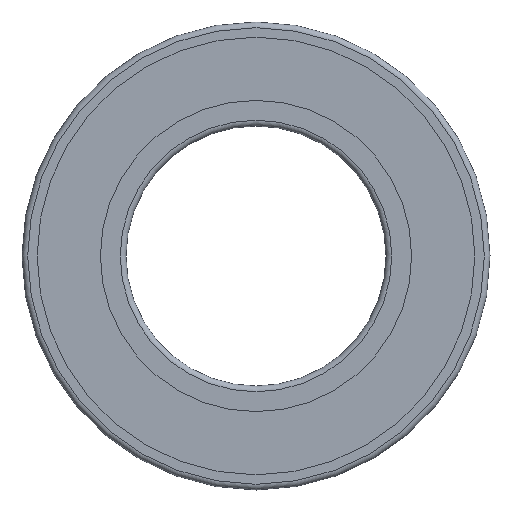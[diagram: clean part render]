
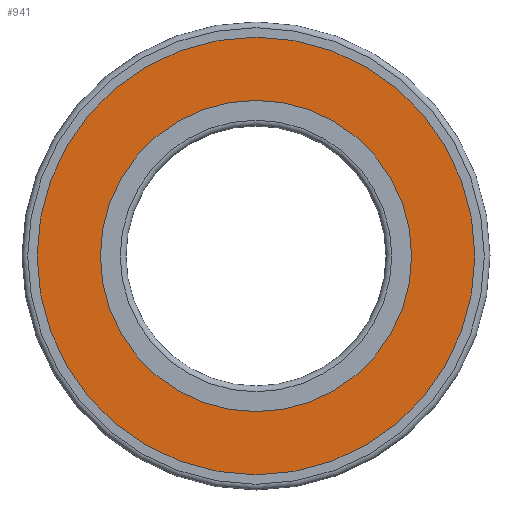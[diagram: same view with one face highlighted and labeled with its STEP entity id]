
A CAD part, left-side view. The second image highlights one B-rep face of the part: STEP entity #941.
In plain terms, the highlighted planar face has unit normal (-1, 0, 0).
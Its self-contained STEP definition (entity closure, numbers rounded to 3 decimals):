
#153=PLANE($,#1103);
#193=FACE_BOUND($,#332,.T.);
#194=FACE_BOUND($,#333,.T.);
#332=EDGE_LOOP($,(#874));
#333=EDGE_LOOP($,(#875));
#423=CIRCLE($,#1102,29.92);
#424=CIRCLE($,#1104,42.08);
#513=VERTEX_POINT($,#2462);
#514=VERTEX_POINT($,#2465);
#634=EDGE_CURVE($,#513,#513,#423,.T.);
#635=EDGE_CURVE($,#514,#514,#424,.T.);
#874=ORIENTED_EDGE($,*,*,#634,.T.);
#875=ORIENTED_EDGE($,*,*,#635,.F.);
#941=ADVANCED_FACE($,(#193,#194),#153,.T.);
#1102=AXIS2_PLACEMENT_3D($,#2463,#1419,#1420);
#1103=AXIS2_PLACEMENT_3D($,#2464,#1421,#1422);
#1104=AXIS2_PLACEMENT_3D($,#2466,#1423,#1424);
#1419=DIRECTION('center_axis',(1.,0.,0.));
#1420=DIRECTION('ref_axis',(0.,0.,-1.));
#1421=DIRECTION('center_axis',(-1.,0.,0.));
#1422=DIRECTION('ref_axis',(0.,0.,1.));
#1423=DIRECTION('center_axis',(1.,0.,0.));
#1424=DIRECTION('ref_axis',(0.,0.,-1.));
#2462=CARTESIAN_POINT('',(-10.,29.92,0.));
#2463=CARTESIAN_POINT('Origin',(-10.,0.,0.));
#2464=CARTESIAN_POINT('Origin',(-10.,42.08,0.));
#2465=CARTESIAN_POINT('',(-10.,42.08,0.));
#2466=CARTESIAN_POINT('Origin',(-10.,0.,0.));
